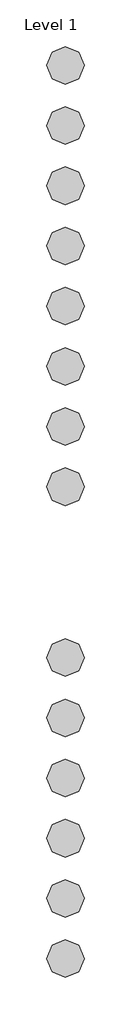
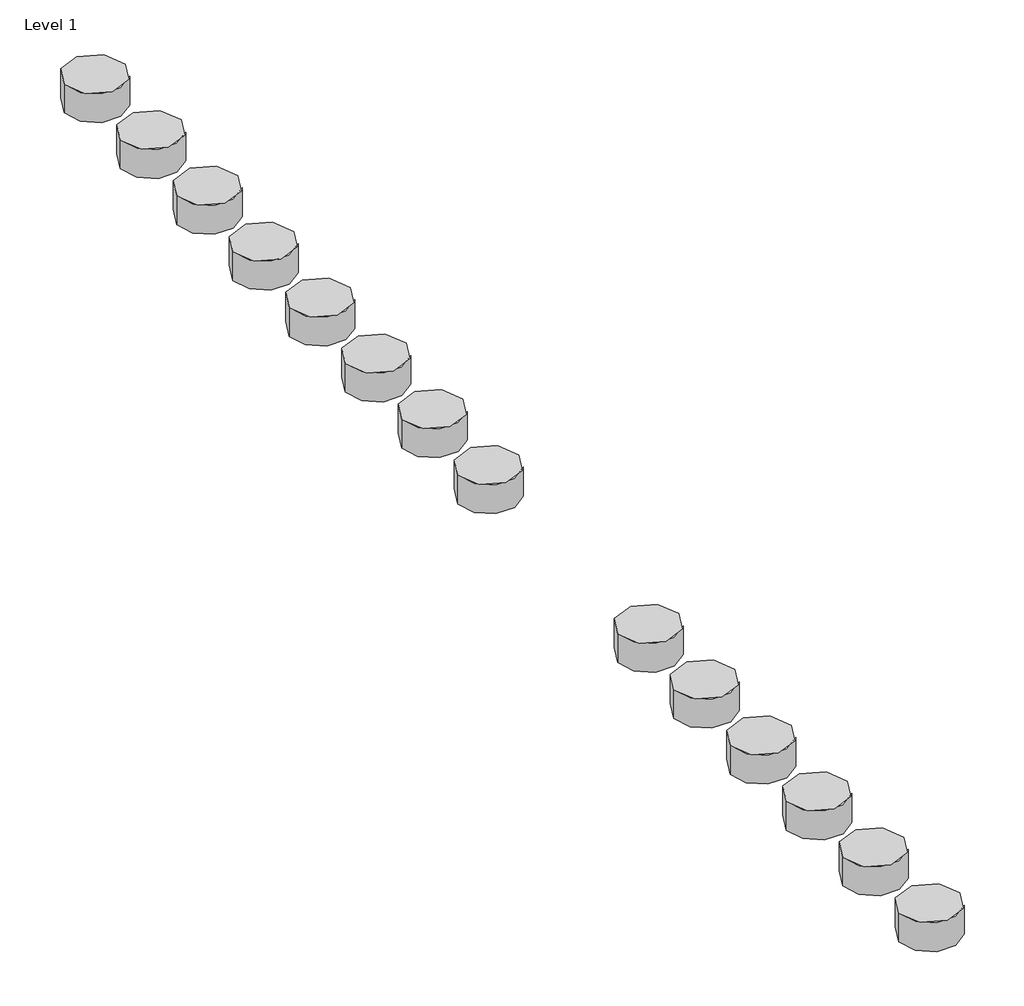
# One storey, incomplete: 14 proxies.
"""IFC4 building model written with IfcOpenShell, lengths in millimetres."""

from ifc_helpers import new_model, si_unit, origin, place, context, project, spatial, transform, mapped, element, save
from components import materialmodel_materialmodel_02e69005

model = new_model("IFC4")

# Units and contexts
model_context = context("Model", 3, world=origin())
ifc_project = project(units=[si_unit("LENGTHUNIT", "METRE", prefix="MILLI")], contexts=[model_context])

# Site, building, storey
site = spatial("IfcSite", under=ifc_project)
building = spatial("IfcBuilding", under=site)
storey = spatial("IfcBuildingStorey", under=building, Name="Level 1", Elevation=0.0)

# Proxies
placement = place(None, origin())
materialmodel_materialmodel_shape = materialmodel_materialmodel_02e69005(model_context)
element("IfcBuildingElementProxy", 1, Name="MaterialModel : MaterialModel", ObjectType="MaterialModel : MaterialModel", at=placement, inside=storey, context=model_context, shape_type="MappedRepresentation", body=[
    mapped(materialmodel_materialmodel_shape, transform((-6095.047164, 4006.7761226, 0.0), x_axis=(1.0, 0.0, 0.0), y_axis=(0.0, 1.0, 0.0), z_axis=(0.0, 0.0, 1.0))),
])
element("IfcBuildingElementProxy", 2, Name="MaterialModel : MaterialModel", ObjectType="MaterialModel : MaterialModel", at=placement, inside=storey, context=model_context, shape_type="MappedRepresentation", body=[
    mapped(materialmodel_materialmodel_shape, transform((-6095.047164, 3846.7761226, 0.0), x_axis=(1.0, 0.0, 0.0), y_axis=(0.0, 1.0, 0.0), z_axis=(0.0, 0.0, 1.0))),
])
element("IfcBuildingElementProxy", 3, Name="MaterialModel : MaterialModel", ObjectType="MaterialModel : MaterialModel", at=placement, inside=storey, context=model_context, shape_type="MappedRepresentation", body=[
    mapped(materialmodel_materialmodel_shape, transform((-6095.047164, 3686.7761226, 0.0), x_axis=(1.0, 0.0, 0.0), y_axis=(0.0, 1.0, 0.0), z_axis=(0.0, 0.0, 1.0))),
])
element("IfcBuildingElementProxy", 4, Name="MaterialModel : MaterialModel", ObjectType="MaterialModel : MaterialModel", at=placement, inside=storey, context=model_context, shape_type="MappedRepresentation", body=[
    mapped(materialmodel_materialmodel_shape, transform((-6095.047164, 3526.7761226, 0.0), x_axis=(1.0, 0.0, 0.0), y_axis=(0.0, 1.0, 0.0), z_axis=(0.0, 0.0, 1.0))),
])
element("IfcBuildingElementProxy", 5, Name="MaterialModel : MaterialModel", ObjectType="MaterialModel : MaterialModel", at=placement, inside=storey, context=model_context, shape_type="MappedRepresentation", body=[
    mapped(materialmodel_materialmodel_shape, transform((-6095.047164, 3366.7761226, 0.0), x_axis=(1.0, 0.0, 0.0), y_axis=(0.0, 1.0, 0.0), z_axis=(0.0, 0.0, 1.0))),
])
element("IfcBuildingElementProxy", 6, Name="MaterialModel : MaterialModel", ObjectType="MaterialModel : MaterialModel", at=placement, inside=storey, context=model_context, shape_type="MappedRepresentation", body=[
    mapped(materialmodel_materialmodel_shape, transform((-6095.047164, 3206.7761226, 0.0), x_axis=(1.0, 0.0, 0.0), y_axis=(0.0, 1.0, 0.0), z_axis=(0.0, 0.0, 1.0))),
])
element("IfcBuildingElementProxy", 7, Name="MaterialModel : MaterialModel", ObjectType="MaterialModel : MaterialModel", at=placement, inside=storey, context=model_context, shape_type="MappedRepresentation", body=[
    mapped(materialmodel_materialmodel_shape, transform((-6095.047164, 5581.1530954, 0.0), x_axis=(1.0, 0.0, 0.0), y_axis=(0.0, 1.0, 0.0), z_axis=(0.0, 0.0, 1.0))),
])
element("IfcBuildingElementProxy", 8, Name="MaterialModel : MaterialModel", ObjectType="MaterialModel : MaterialModel", at=placement, inside=storey, context=model_context, shape_type="MappedRepresentation", body=[
    mapped(materialmodel_materialmodel_shape, transform((-6095.047164, 5421.1530954, 0.0), x_axis=(1.0, 0.0, 0.0), y_axis=(0.0, 1.0, 0.0), z_axis=(0.0, 0.0, 1.0))),
])
element("IfcBuildingElementProxy", 9, Name="MaterialModel : MaterialModel", ObjectType="MaterialModel : MaterialModel", at=placement, inside=storey, context=model_context, shape_type="MappedRepresentation", body=[
    mapped(materialmodel_materialmodel_shape, transform((-6095.047164, 5101.1530954, 0.0), x_axis=(1.0, 0.0, 0.0), y_axis=(0.0, 1.0, 0.0), z_axis=(0.0, 0.0, 1.0))),
])
element("IfcBuildingElementProxy", 10, Name="MaterialModel : MaterialModel", ObjectType="MaterialModel : MaterialModel", at=placement, inside=storey, context=model_context, shape_type="MappedRepresentation", body=[
    mapped(materialmodel_materialmodel_shape, transform((-6095.047164, 4941.1530954, 0.0), x_axis=(1.0, 0.0, 0.0), y_axis=(0.0, 1.0, 0.0), z_axis=(0.0, 0.0, 1.0))),
])
element("IfcBuildingElementProxy", 11, Name="MaterialModel : MaterialModel", ObjectType="MaterialModel : MaterialModel", at=placement, inside=storey, context=model_context, shape_type="MappedRepresentation", body=[
    mapped(materialmodel_materialmodel_shape, transform((-6095.047164, 4781.1530954, 0.0), x_axis=(1.0, 0.0, 0.0), y_axis=(0.0, 1.0, 0.0), z_axis=(0.0, 0.0, 1.0))),
])
element("IfcBuildingElementProxy", 12, Name="MaterialModel : MaterialModel", ObjectType="MaterialModel : MaterialModel", at=placement, inside=storey, context=model_context, shape_type="MappedRepresentation", body=[
    mapped(materialmodel_materialmodel_shape, transform((-6095.047164, 4621.1530954, 0.0), x_axis=(1.0, 0.0, 0.0), y_axis=(0.0, 1.0, 0.0), z_axis=(0.0, 0.0, 1.0))),
])
element("IfcBuildingElementProxy", 13, Name="MaterialModel : MaterialModel", ObjectType="MaterialModel : MaterialModel", at=placement, inside=storey, context=model_context, shape_type="MappedRepresentation", body=[
    mapped(materialmodel_materialmodel_shape, transform((-6095.047164, 4461.1530954, 0.0), x_axis=(1.0, 0.0, 0.0), y_axis=(0.0, 1.0, 0.0), z_axis=(0.0, 0.0, 1.0))),
])
element("IfcBuildingElementProxy", 14, Name="MaterialModel : MaterialModel", ObjectType="MaterialModel : MaterialModel", at=placement, inside=storey, context=model_context, shape_type="MappedRepresentation", body=[
    mapped(materialmodel_materialmodel_shape, transform((-6095.047164, 5261.1530954, 0.0), x_axis=(1.0, 0.0, 0.0), y_axis=(0.0, 1.0, 0.0), z_axis=(0.0, 0.0, 1.0))),
])

save(model, "model.ifc")
